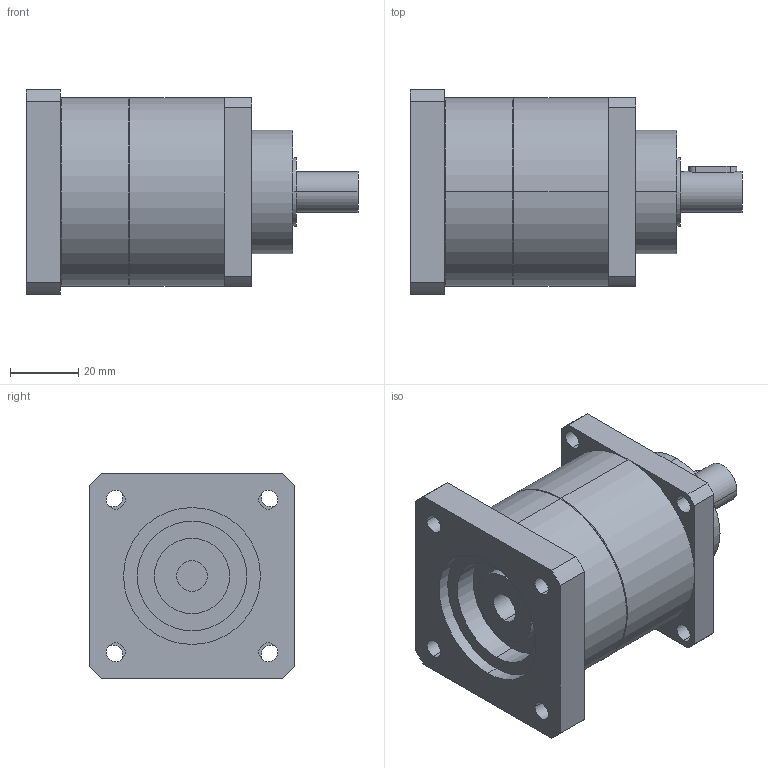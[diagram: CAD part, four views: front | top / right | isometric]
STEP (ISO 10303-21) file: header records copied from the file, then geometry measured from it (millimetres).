
FILE_DESCRIPTION(('CoCreate Modeling STEP Export'),'2;1');
FILE_NAME('GPT55_ig-3-4-5-7-10_12_B5A_9_P03.stp','2014-08-25T14:35:38',(''),(''),'CoCreate Modeling STEP processor for AP214 (Solid Model)','CoCreate Modeling 16.00C 25-Feb-2009 (C) Parametric Technology GmbH','');
FILE_SCHEMA(('AUTOMOTIVE_DESIGN { 1 0 10303 214 1 1 1 1 }'));
Length unit declared in the file: millimetre
Products named in the file (2): GPT55_ig-3-4-5-7-10_12_B5A_9_P03
Assembly tree (1 placements, depth 2):
  GPT55_ig-3-4-5-7-10_12_B5A_9_P03
    GPT55_ig-3-4-5-7-10_12_B5A_9_P03
Bounding box: 97 x 60 x 60 mm (x, y, z)
Volume: 176731.3 mm3; surface area: 25981.9 mm2
Topology: 1 solids, 1 shells, 77 faces, 204 edges, 139 vertices
Faces by surface type: cylinder 46, plane 27, cone 4
Entity records: 2515 total; most frequent: CARTESIAN_POINT 710, ORIENTED_EDGE 408, DIRECTION 318, EDGE_CURVE 204, VERTEX_POINT 139, AXIS2_PLACEMENT_3D 117, EDGE_LOOP 103, VECTOR 84
